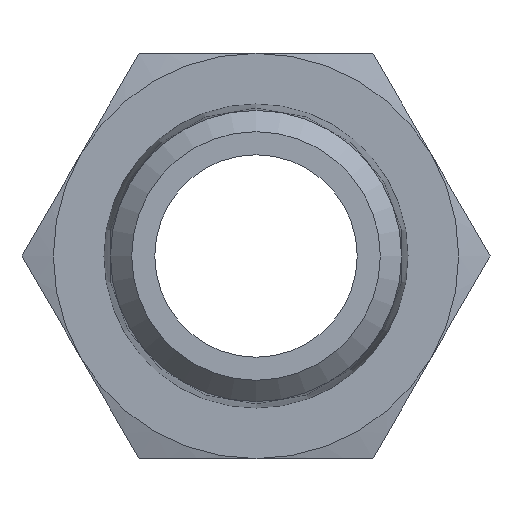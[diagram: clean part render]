
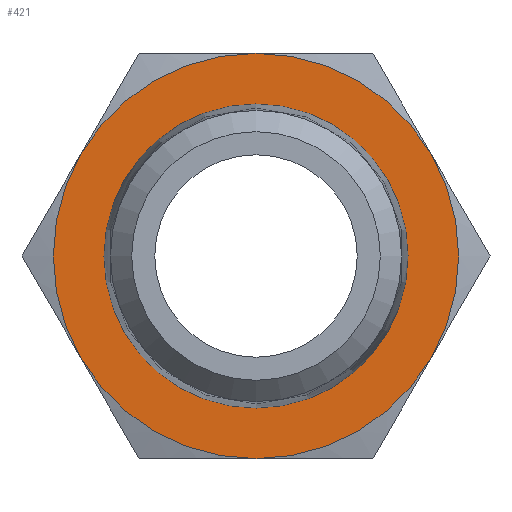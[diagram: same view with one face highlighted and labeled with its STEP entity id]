
A CAD part, left-side view. The second image highlights one B-rep face of the part: STEP entity #421.
In plain terms, the highlighted planar face has unit normal (-1, 0, 0).
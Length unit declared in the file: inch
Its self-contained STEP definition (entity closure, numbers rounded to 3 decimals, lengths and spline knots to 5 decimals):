
#38=PLANE('',#481);
#47=CIRCLE('',#453,0.4375);
#48=CIRCLE('',#455,0.4375);
#49=CIRCLE('',#457,0.4375);
#50=CIRCLE('',#459,0.4375);
#51=CIRCLE('',#461,0.4375);
#61=CIRCLE('',#480,0.32825);
#62=CIRCLE('',#482,0.4375);
#110=ORIENTED_EDGE('',*,*,#192,.F.);
#111=ORIENTED_EDGE('',*,*,#194,.F.);
#112=ORIENTED_EDGE('',*,*,#217,.F.);
#113=ORIENTED_EDGE('',*,*,#184,.F.);
#114=ORIENTED_EDGE('',*,*,#185,.F.);
#115=ORIENTED_EDGE('',*,*,#188,.F.);
#116=ORIENTED_EDGE('',*,*,#216,.T.);
#184=EDGE_CURVE('',#239,#237,#47,.T.);
#185=EDGE_CURVE('',#240,#239,#48,.T.);
#188=EDGE_CURVE('',#242,#240,#49,.T.);
#192=EDGE_CURVE('',#245,#242,#50,.T.);
#194=EDGE_CURVE('',#246,#245,#51,.T.);
#216=EDGE_CURVE('',#263,#263,#61,.T.);
#217=EDGE_CURVE('',#237,#246,#62,.T.);
#237=VERTEX_POINT('',#637);
#239=VERTEX_POINT('',#643);
#240=VERTEX_POINT('',#647);
#242=VERTEX_POINT('',#659);
#245=VERTEX_POINT('',#675);
#246=VERTEX_POINT('',#683);
#263=VERTEX_POINT('',#767);
#316=EDGE_LOOP('',(#110,#111,#112,#113,#114,#115));
#317=EDGE_LOOP('',(#116));
#362=FACE_BOUND('',#316,.T.);
#363=FACE_BOUND('',#317,.T.);
#421=ADVANCED_FACE('',(#362,#363),#38,.F.);
#453=AXIS2_PLACEMENT_3D('',#644,#513,#514);
#455=AXIS2_PLACEMENT_3D('',#646,#517,#518);
#457=AXIS2_PLACEMENT_3D('',#658,#521,#522);
#459=AXIS2_PLACEMENT_3D('',#676,#525,#526);
#461=AXIS2_PLACEMENT_3D('',#682,#529,#530);
#480=AXIS2_PLACEMENT_3D('',#766,#567,#568);
#481=AXIS2_PLACEMENT_3D('',#768,#569,#570);
#482=AXIS2_PLACEMENT_3D('',#769,#571,#572);
#513=DIRECTION('',(1.,0.,0.));
#514=DIRECTION('',(0.,0.,-1.));
#517=DIRECTION('',(1.,0.,0.));
#518=DIRECTION('',(0.,0.,-1.));
#521=DIRECTION('',(1.,0.,0.));
#522=DIRECTION('',(0.,0.,-1.));
#525=DIRECTION('',(1.,0.,0.));
#526=DIRECTION('',(0.,0.,-1.));
#529=DIRECTION('',(1.,0.,0.));
#530=DIRECTION('',(0.,0.,-1.));
#567=DIRECTION('',(1.,0.,0.));
#568=DIRECTION('',(0.,0.,-1.));
#569=DIRECTION('',(1.,0.,0.));
#570=DIRECTION('',(0.,0.,-1.));
#571=DIRECTION('',(1.,0.,0.));
#572=DIRECTION('',(0.,0.,-1.));
#637=CARTESIAN_POINT('',(0.563,-0.37889,-0.21875));
#643=CARTESIAN_POINT('',(0.563,-0.37889,0.21875));
#644=CARTESIAN_POINT('',(0.563,0.,0.));
#646=CARTESIAN_POINT('',(0.563,0.,0.));
#647=CARTESIAN_POINT('',(0.563,0.,0.4375));
#658=CARTESIAN_POINT('',(0.563,0.,0.));
#659=CARTESIAN_POINT('',(0.563,0.37889,0.21875));
#675=CARTESIAN_POINT('',(0.563,0.37889,-0.21875));
#676=CARTESIAN_POINT('',(0.563,0.,0.));
#682=CARTESIAN_POINT('',(0.563,0.,0.));
#683=CARTESIAN_POINT('',(0.563,0.,-0.4375));
#766=CARTESIAN_POINT('',(0.563,0.,0.));
#767=CARTESIAN_POINT('',(0.563,0.,-0.32825));
#768=CARTESIAN_POINT('',(0.563,0.32825,0.));
#769=CARTESIAN_POINT('',(0.563,0.,0.));
